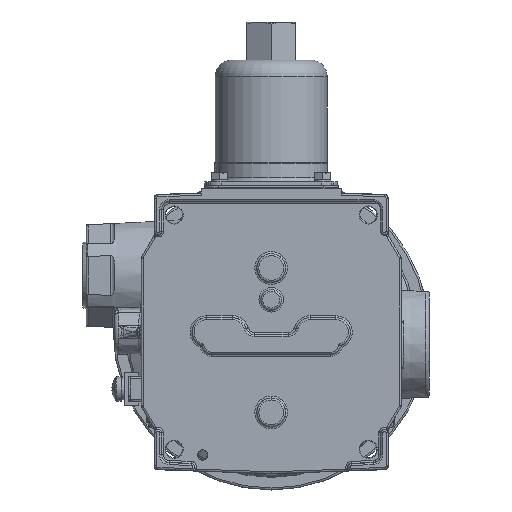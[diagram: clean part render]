
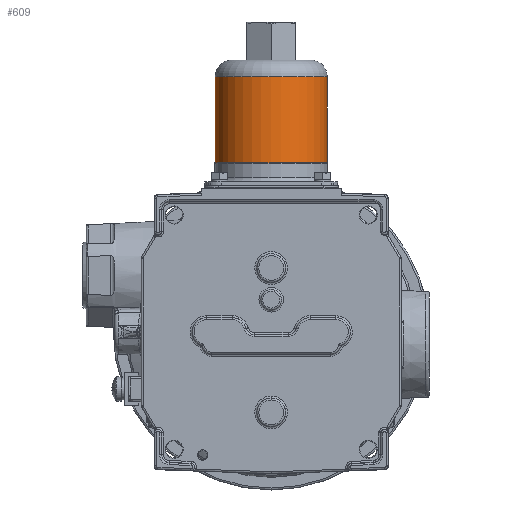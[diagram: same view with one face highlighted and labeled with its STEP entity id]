
A CAD part, front view. The second image highlights one B-rep face of the part: STEP entity #609.
In plain terms, the highlighted cylindrical face has radius 21.958 mm (diameter 43.917 mm), a full revolution.
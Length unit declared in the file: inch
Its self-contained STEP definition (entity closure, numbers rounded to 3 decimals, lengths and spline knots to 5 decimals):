
#406 = DIRECTION ( 'NONE',  ( 0., 1., 0. ) ) ;
#609 = ADVANCED_FACE ( 'NONE', ( #4399, #4797 ), #29805, .T. ) ;
#1961 = DIRECTION ( 'NONE',  ( 0., 1., 0. ) ) ;
#3648 = DIRECTION ( 'NONE',  ( 0., 0., -1. ) ) ;
#4399 = FACE_OUTER_BOUND ( 'NONE', #8458, .T. ) ;
#4700 = AXIS2_PLACEMENT_3D ( 'NONE', #28447, #3648, #406 ) ;
#4797 = FACE_OUTER_BOUND ( 'NONE', #32855, .T. ) ;
#6784 = AXIS2_PLACEMENT_3D ( 'NONE', #8042, #17183, #1961 ) ;
#7792 = VERTEX_POINT ( 'NONE', #20189 ) ;
#8042 = CARTESIAN_POINT ( 'NONE',  ( -0.00006, -0.00006, 3.01679 ) ) ;
#8458 = EDGE_LOOP ( 'NONE', ( #36443 ) ) ;
#8912 = CARTESIAN_POINT ( 'NONE',  ( -0.00006, -0.00006, 2.62016 ) ) ;
#12567 = EDGE_CURVE ( 'NONE', #7792, #7792, #39090, .T. ) ;
#12611 = CIRCLE ( 'NONE', #32733, 0.8645 ) ;
#13252 = ORIENTED_EDGE ( 'NONE', *, *, #12567, .T. ) ;
#17183 = DIRECTION ( 'NONE',  ( 0., 0., -1. ) ) ;
#18315 = CARTESIAN_POINT ( 'NONE',  ( -0.00006, 0.86444, 2.62016 ) ) ;
#20189 = CARTESIAN_POINT ( 'NONE',  ( -0.00006, 0.86444, 3.94666 ) ) ;
#20980 = VERTEX_POINT ( 'NONE', #18315 ) ;
#21108 = DIRECTION ( 'NONE',  ( 0., 0., -1. ) ) ;
#21912 = DIRECTION ( 'NONE',  ( 0., 1., 0. ) ) ;
#23781 = EDGE_CURVE ( 'NONE', #20980, #20980, #12611, .T. ) ;
#28447 = CARTESIAN_POINT ( 'NONE',  ( -0.00006, -0.00006, 3.94666 ) ) ;
#29805 = CYLINDRICAL_SURFACE ( 'NONE', #6784, 0.8645 ) ;
#32733 = AXIS2_PLACEMENT_3D ( 'NONE', #8912, #21108, #21912 ) ;
#32855 = EDGE_LOOP ( 'NONE', ( #13252 ) ) ;
#36443 = ORIENTED_EDGE ( 'NONE', *, *, #23781, .F. ) ;
#39090 = CIRCLE ( 'NONE', #4700, 0.8645 ) ;
